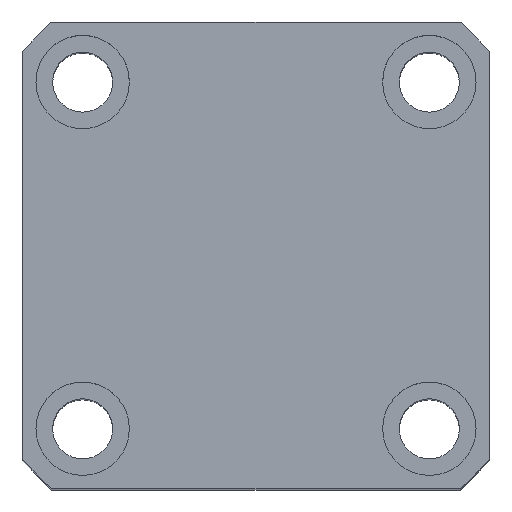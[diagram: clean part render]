
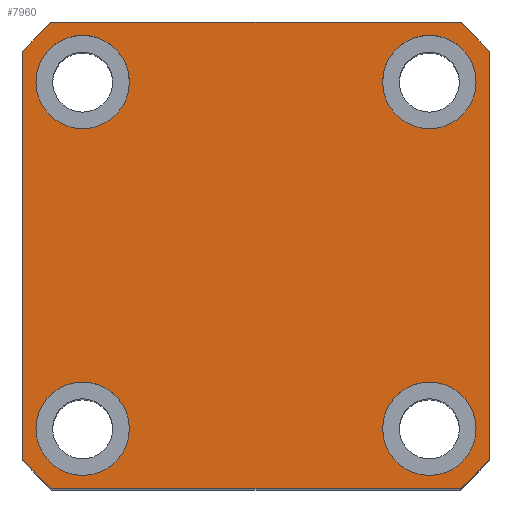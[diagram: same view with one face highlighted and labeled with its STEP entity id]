
A CAD part, top view. The second image highlights one B-rep face of the part: STEP entity #7960.
In plain terms, the highlighted planar face has unit normal (0, 0, 1).
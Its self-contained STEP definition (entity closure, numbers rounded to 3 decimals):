
#89 = DIRECTION ( 'NONE',  ( 1., 0., 0. ) ) ;
#196 = DIRECTION ( 'NONE',  ( 1., 0., 0. ) ) ;
#451 = DIRECTION ( 'NONE',  ( 0., 0., 1. ) ) ;
#541 = CARTESIAN_POINT ( 'NONE',  ( 30.615, 35., 110. ) ) ;
#562 = ORIENTED_EDGE ( 'NONE', *, *, #3440, .F. ) ;
#670 = AXIS2_PLACEMENT_3D ( 'NONE', #10985, #4772, #12018 ) ;
#784 = DIRECTION ( 'NONE',  ( -1., 0., 0. ) ) ;
#962 = ORIENTED_EDGE ( 'NONE', *, *, #4657, .F. ) ;
#1121 = EDGE_CURVE ( 'NONE', #9354, #6397, #2611, .T. ) ;
#1208 = CARTESIAN_POINT ( 'NONE',  ( 30.615, -35., 110. ) ) ;
#1322 = ORIENTED_EDGE ( 'NONE', *, *, #12811, .F. ) ;
#1371 = CIRCLE ( 'NONE', #3178, 7. ) ;
#1430 = AXIS2_PLACEMENT_3D ( 'NONE', #12716, #6524, #196 ) ;
#1488 = EDGE_CURVE ( 'NONE', #12291, #2939, #2768, .T. ) ;
#1598 = LINE ( 'NONE', #6810, #3751 ) ;
#1681 = EDGE_CURVE ( 'NONE', #6397, #2937, #7669, .T. ) ;
#1944 = ORIENTED_EDGE ( 'NONE', *, *, #8593, .T. ) ;
#2076 = AXIS2_PLACEMENT_3D ( 'NONE', #12961, #451, #7800 ) ;
#2143 = ORIENTED_EDGE ( 'NONE', *, *, #1488, .F. ) ;
#2223 = DIRECTION ( 'NONE',  ( 0., 0., 1. ) ) ;
#2374 = EDGE_CURVE ( 'NONE', #10444, #9354, #1598, .T. ) ;
#2487 = VERTEX_POINT ( 'NONE', #7783 ) ;
#2611 = CIRCLE ( 'NONE', #9031, 46.5 ) ;
#2636 = VERTEX_POINT ( 'NONE', #10963 ) ;
#2768 = CIRCLE ( 'NONE', #8770, 7. ) ;
#2868 = CIRCLE ( 'NONE', #10165, 7. ) ;
#2900 = CARTESIAN_POINT ( 'NONE',  ( 0., 0., 110. ) ) ;
#2937 = VERTEX_POINT ( 'NONE', #1208 ) ;
#2939 = VERTEX_POINT ( 'NONE', #5418 ) ;
#2973 = ORIENTED_EDGE ( 'NONE', *, *, #5672, .F. ) ;
#2977 = EDGE_LOOP ( 'NONE', ( #8191, #2143 ) ) ;
#3019 = CIRCLE ( 'NONE', #670, 46.5 ) ;
#3178 = AXIS2_PLACEMENT_3D ( 'NONE', #3673, #10926, #4710 ) ;
#3317 = DIRECTION ( 'NONE',  ( 0., 0., 1. ) ) ;
#3440 = EDGE_CURVE ( 'NONE', #2636, #8930, #7556, .T. ) ;
#3475 = CIRCLE ( 'NONE', #13189, 7. ) ;
#3493 = DIRECTION ( 'NONE',  ( 1., 0., 0. ) ) ;
#3510 = EDGE_CURVE ( 'NONE', #2487, #10682, #13053, .T. ) ;
#3584 = EDGE_LOOP ( 'NONE', ( #962, #562 ) ) ;
#3619 = DIRECTION ( 'NONE',  ( 0., 0., 1. ) ) ;
#3668 = CARTESIAN_POINT ( 'NONE',  ( -35., -30.615, 110. ) ) ;
#3673 = CARTESIAN_POINT ( 'NONE',  ( 26., 26., 110. ) ) ;
#3721 = CARTESIAN_POINT ( 'NONE',  ( -30.615, 35., 110. ) ) ;
#3751 = VECTOR ( 'NONE', #12983, 1000. ) ;
#3787 = CIRCLE ( 'NONE', #6023, 46.5 ) ;
#3806 = VERTEX_POINT ( 'NONE', #3721 ) ;
#3807 = DIRECTION ( 'NONE',  ( 0., 0., 1. ) ) ;
#3847 = CARTESIAN_POINT ( 'NONE',  ( -26., -26., 110. ) ) ;
#3976 = FACE_OUTER_BOUND ( 'NONE', #9526, .T. ) ;
#3985 = DIRECTION ( 'NONE',  ( 1., 0., 0. ) ) ;
#4053 = VECTOR ( 'NONE', #6841, 1000. ) ;
#4148 = CARTESIAN_POINT ( 'NONE',  ( 19., 26., 110. ) ) ;
#4324 = DIRECTION ( 'NONE',  ( 0., 0., 1. ) ) ;
#4382 = ORIENTED_EDGE ( 'NONE', *, *, #3510, .F. ) ;
#4533 = CARTESIAN_POINT ( 'NONE',  ( 35., 30.615, 110. ) ) ;
#4587 = CARTESIAN_POINT ( 'NONE',  ( -35., 30.615, 110. ) ) ;
#4657 = EDGE_CURVE ( 'NONE', #8930, #2636, #9426, .T. ) ;
#4707 = CARTESIAN_POINT ( 'NONE',  ( 0., 0., 110. ) ) ;
#4710 = DIRECTION ( 'NONE',  ( 1., 0., 0. ) ) ;
#4769 = ORIENTED_EDGE ( 'NONE', *, *, #1121, .T. ) ;
#4772 = DIRECTION ( 'NONE',  ( 0., 0., 1. ) ) ;
#4793 = AXIS2_PLACEMENT_3D ( 'NONE', #9860, #3619, #10873 ) ;
#5072 = CARTESIAN_POINT ( 'NONE',  ( -35., -35., 110. ) ) ;
#5222 = EDGE_CURVE ( 'NONE', #12193, #5608, #12318, .T. ) ;
#5244 = ORIENTED_EDGE ( 'NONE', *, *, #5222, .T. ) ;
#5348 = VECTOR ( 'NONE', #784, 1000. ) ;
#5410 = CARTESIAN_POINT ( 'NONE',  ( -26., 26., 110. ) ) ;
#5418 = CARTESIAN_POINT ( 'NONE',  ( -19., -26., 110. ) ) ;
#5422 = CIRCLE ( 'NONE', #4793, 46.5 ) ;
#5475 = CARTESIAN_POINT ( 'NONE',  ( 35., -30.615, 110. ) ) ;
#5555 = CARTESIAN_POINT ( 'NONE',  ( -33., -26., 110. ) ) ;
#5608 = VERTEX_POINT ( 'NONE', #4533 ) ;
#5672 = EDGE_CURVE ( 'NONE', #10989, #13309, #1371, .T. ) ;
#5987 = EDGE_CURVE ( 'NONE', #10682, #2487, #2868, .T. ) ;
#5990 = LINE ( 'NONE', #7100, #5348 ) ;
#6002 = DIRECTION ( 'NONE',  ( 0., 0., 1. ) ) ;
#6016 = EDGE_CURVE ( 'NONE', #11618, #3806, #5990, .T. ) ;
#6023 = AXIS2_PLACEMENT_3D ( 'NONE', #2900, #10203, #3985 ) ;
#6119 = CIRCLE ( 'NONE', #1430, 7. ) ;
#6161 = DIRECTION ( 'NONE',  ( 0., 0., 1. ) ) ;
#6397 = VERTEX_POINT ( 'NONE', #9852 ) ;
#6473 = DIRECTION ( 'NONE',  ( 1., 0., 0. ) ) ;
#6524 = DIRECTION ( 'NONE',  ( 0., 0., 1. ) ) ;
#6635 = ORIENTED_EDGE ( 'NONE', *, *, #6016, .T. ) ;
#6759 = FACE_BOUND ( 'NONE', #3584, .T. ) ;
#6810 = CARTESIAN_POINT ( 'NONE',  ( -35., 35., 110. ) ) ;
#6841 = DIRECTION ( 'NONE',  ( 0., 1., 0. ) ) ;
#7054 = ORIENTED_EDGE ( 'NONE', *, *, #1681, .T. ) ;
#7100 = CARTESIAN_POINT ( 'NONE',  ( -35., 35., 110. ) ) ;
#7284 = EDGE_CURVE ( 'NONE', #3806, #10444, #3019, .T. ) ;
#7398 = CARTESIAN_POINT ( 'NONE',  ( -19., 26., 110. ) ) ;
#7404 = FACE_BOUND ( 'NONE', #11336, .T. ) ;
#7556 = CIRCLE ( 'NONE', #8087, 7. ) ;
#7627 = PLANE ( 'NONE',  #2076 ) ;
#7669 = LINE ( 'NONE', #5072, #10111 ) ;
#7783 = CARTESIAN_POINT ( 'NONE',  ( 19., -26., 110. ) ) ;
#7800 = DIRECTION ( 'NONE',  ( 1., 0., 0. ) ) ;
#7960 = ADVANCED_FACE ( 'NONE', ( #12241, #7404, #9516, #6759, #3976 ), #7627, .T. ) ;
#8087 = AXIS2_PLACEMENT_3D ( 'NONE', #8458, #2223, #9534 ) ;
#8191 = ORIENTED_EDGE ( 'NONE', *, *, #13454, .F. ) ;
#8343 = ORIENTED_EDGE ( 'NONE', *, *, #9291, .T. ) ;
#8458 = CARTESIAN_POINT ( 'NONE',  ( -26., 26., 110. ) ) ;
#8593 = EDGE_CURVE ( 'NONE', #2937, #12193, #3787, .T. ) ;
#8770 = AXIS2_PLACEMENT_3D ( 'NONE', #3847, #3807, #3493 ) ;
#8930 = VERTEX_POINT ( 'NONE', #7398 ) ;
#9031 = AXIS2_PLACEMENT_3D ( 'NONE', #4707, #4324, #89 ) ;
#9291 = EDGE_CURVE ( 'NONE', #5608, #11618, #5422, .T. ) ;
#9354 = VERTEX_POINT ( 'NONE', #3668 ) ;
#9426 = CIRCLE ( 'NONE', #12163, 7. ) ;
#9516 = FACE_BOUND ( 'NONE', #13382, .T. ) ;
#9526 = EDGE_LOOP ( 'NONE', ( #5244, #8343, #6635, #9641, #10650, #4769, #7054, #1944 ) ) ;
#9534 = DIRECTION ( 'NONE',  ( 1., 0., 0. ) ) ;
#9572 = CARTESIAN_POINT ( 'NONE',  ( 26., -26., 110. ) ) ;
#9641 = ORIENTED_EDGE ( 'NONE', *, *, #7284, .T. ) ;
#9852 = CARTESIAN_POINT ( 'NONE',  ( -30.615, -35., 110. ) ) ;
#9860 = CARTESIAN_POINT ( 'NONE',  ( 0., 0., 110. ) ) ;
#10111 = VECTOR ( 'NONE', #12539, 1000. ) ;
#10165 = AXIS2_PLACEMENT_3D ( 'NONE', #12192, #6002, #13244 ) ;
#10203 = DIRECTION ( 'NONE',  ( 0., 0., 1. ) ) ;
#10444 = VERTEX_POINT ( 'NONE', #4587 ) ;
#10592 = DIRECTION ( 'NONE',  ( 1., 0., 0. ) ) ;
#10650 = ORIENTED_EDGE ( 'NONE', *, *, #2374, .T. ) ;
#10682 = VERTEX_POINT ( 'NONE', #12147 ) ;
#10857 = AXIS2_PLACEMENT_3D ( 'NONE', #9572, #3317, #10592 ) ;
#10873 = DIRECTION ( 'NONE',  ( 1., 0., 0. ) ) ;
#10926 = DIRECTION ( 'NONE',  ( 0., 0., 1. ) ) ;
#10963 = CARTESIAN_POINT ( 'NONE',  ( -33., 26., 110. ) ) ;
#10985 = CARTESIAN_POINT ( 'NONE',  ( 0., 0., 110. ) ) ;
#10989 = VERTEX_POINT ( 'NONE', #4148 ) ;
#11336 = EDGE_LOOP ( 'NONE', ( #13328, #4382 ) ) ;
#11618 = VERTEX_POINT ( 'NONE', #541 ) ;
#12018 = DIRECTION ( 'NONE',  ( 1., 0., 0. ) ) ;
#12147 = CARTESIAN_POINT ( 'NONE',  ( 33., -26., 110. ) ) ;
#12163 = AXIS2_PLACEMENT_3D ( 'NONE', #5410, #12642, #6473 ) ;
#12192 = CARTESIAN_POINT ( 'NONE',  ( 26., -26., 110. ) ) ;
#12193 = VERTEX_POINT ( 'NONE', #5475 ) ;
#12241 = FACE_BOUND ( 'NONE', #2977, .T. ) ;
#12291 = VERTEX_POINT ( 'NONE', #5555 ) ;
#12318 = LINE ( 'NONE', #12839, #4053 ) ;
#12346 = CARTESIAN_POINT ( 'NONE',  ( -26., -26., 110. ) ) ;
#12539 = DIRECTION ( 'NONE',  ( 1., 0., 0. ) ) ;
#12642 = DIRECTION ( 'NONE',  ( 0., 0., 1. ) ) ;
#12716 = CARTESIAN_POINT ( 'NONE',  ( 26., 26., 110. ) ) ;
#12811 = EDGE_CURVE ( 'NONE', #13309, #10989, #6119, .T. ) ;
#12839 = CARTESIAN_POINT ( 'NONE',  ( 35., 35., 110. ) ) ;
#12961 = CARTESIAN_POINT ( 'NONE',  ( 0., 0., 110. ) ) ;
#12983 = DIRECTION ( 'NONE',  ( 0., -1., 0. ) ) ;
#13053 = CIRCLE ( 'NONE', #10857, 7. ) ;
#13155 = CARTESIAN_POINT ( 'NONE',  ( 33., 26., 110. ) ) ;
#13189 = AXIS2_PLACEMENT_3D ( 'NONE', #12346, #6161, #13399 ) ;
#13244 = DIRECTION ( 'NONE',  ( 1., 0., 0. ) ) ;
#13309 = VERTEX_POINT ( 'NONE', #13155 ) ;
#13328 = ORIENTED_EDGE ( 'NONE', *, *, #5987, .F. ) ;
#13382 = EDGE_LOOP ( 'NONE', ( #1322, #2973 ) ) ;
#13399 = DIRECTION ( 'NONE',  ( 1., 0., 0. ) ) ;
#13454 = EDGE_CURVE ( 'NONE', #2939, #12291, #3475, .T. ) ;
